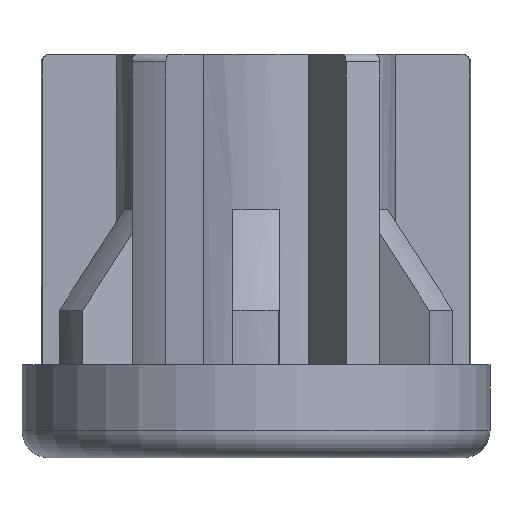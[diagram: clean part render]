
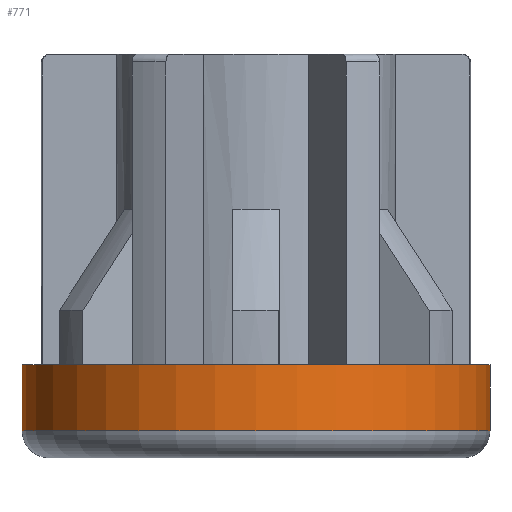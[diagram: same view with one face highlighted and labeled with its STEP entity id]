
A CAD part, front view. The second image highlights one B-rep face of the part: STEP entity #771.
In plain terms, the highlighted cylindrical face has radius 30.15 mm (diameter 60.3 mm), a partial arc.
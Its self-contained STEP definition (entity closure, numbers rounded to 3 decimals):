
#71 = VECTOR ( 'NONE', #4016, 1000. ) ;
#306 = CARTESIAN_POINT ( 'NONE',  ( -30.242, 0.005, 0. ) ) ;
#500 = VERTEX_POINT ( 'NONE', #4302 ) ;
#601 = DIRECTION ( 'NONE',  ( 0., 0., -1. ) ) ;
#657 = CARTESIAN_POINT ( 'NONE',  ( 30.058, 0.005, 0. ) ) ;
#665 = EDGE_CURVE ( 'NONE', #1605, #679, #988, .T. ) ;
#679 = VERTEX_POINT ( 'NONE', #3341 ) ;
#771 = ADVANCED_FACE ( 'NONE', ( #3562 ), #4206, .T. ) ;
#988 = LINE ( 'NONE', #306, #71 ) ;
#1139 = CIRCLE ( 'NONE', #3285, 30.15 ) ;
#1171 = DIRECTION ( 'NONE',  ( 0., 0., -1. ) ) ;
#1178 = CIRCLE ( 'NONE', #4090, 30.15 ) ;
#1253 = CARTESIAN_POINT ( 'NONE',  ( -0.092, 0.005, 0. ) ) ;
#1301 = CARTESIAN_POINT ( 'NONE',  ( -30.242, 0.005, -8.5 ) ) ;
#1312 = ORIENTED_EDGE ( 'NONE', *, *, #1365, .F. ) ;
#1365 = EDGE_CURVE ( 'NONE', #500, #1605, #1139, .T. ) ;
#1502 = EDGE_LOOP ( 'NONE', ( #3749, #1312, #4281, #2024 ) ) ;
#1605 = VERTEX_POINT ( 'NONE', #1301 ) ;
#1615 = CARTESIAN_POINT ( 'NONE',  ( 30.058, 0.005, 0. ) ) ;
#1692 = DIRECTION ( 'NONE',  ( -1., 0., 0. ) ) ;
#2024 = ORIENTED_EDGE ( 'NONE', *, *, #3165, .T. ) ;
#2183 = DIRECTION ( 'NONE',  ( -1., 0., 0. ) ) ;
#2702 = VECTOR ( 'NONE', #2970, 1000. ) ;
#2729 = DIRECTION ( 'NONE',  ( -1., 0., 0. ) ) ;
#2849 = AXIS2_PLACEMENT_3D ( 'NONE', #4034, #3396, #1692 ) ;
#2970 = DIRECTION ( 'NONE',  ( 0., 0., -1. ) ) ;
#3165 = EDGE_CURVE ( 'NONE', #3700, #679, #1178, .T. ) ;
#3285 = AXIS2_PLACEMENT_3D ( 'NONE', #3835, #1171, #2183 ) ;
#3341 = CARTESIAN_POINT ( 'NONE',  ( -30.242, 0.005, 0. ) ) ;
#3396 = DIRECTION ( 'NONE',  ( 0., 0., -1. ) ) ;
#3562 = FACE_OUTER_BOUND ( 'NONE', #1502, .T. ) ;
#3700 = VERTEX_POINT ( 'NONE', #657 ) ;
#3749 = ORIENTED_EDGE ( 'NONE', *, *, #665, .F. ) ;
#3803 = LINE ( 'NONE', #1615, #2702 ) ;
#3835 = CARTESIAN_POINT ( 'NONE',  ( -0.092, 0.005, -8.5 ) ) ;
#4016 = DIRECTION ( 'NONE',  ( 0., 0., 1. ) ) ;
#4034 = CARTESIAN_POINT ( 'NONE',  ( -0.092, 0.005, 0. ) ) ;
#4090 = AXIS2_PLACEMENT_3D ( 'NONE', #1253, #601, #2729 ) ;
#4206 = CYLINDRICAL_SURFACE ( 'NONE', #2849, 30.15 ) ;
#4281 = ORIENTED_EDGE ( 'NONE', *, *, #4349, .F. ) ;
#4302 = CARTESIAN_POINT ( 'NONE',  ( 30.058, 0.005, -8.5 ) ) ;
#4349 = EDGE_CURVE ( 'NONE', #3700, #500, #3803, .T. ) ;
